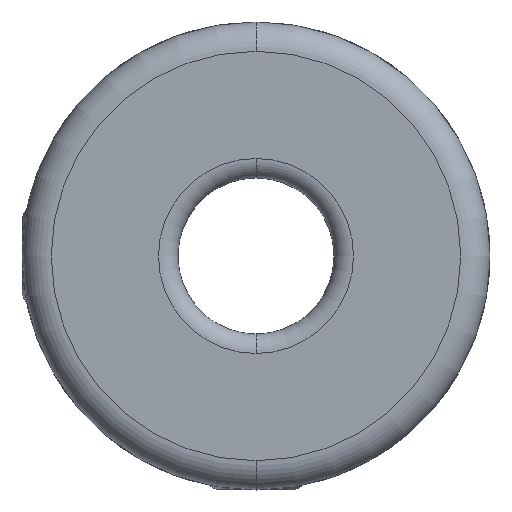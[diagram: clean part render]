
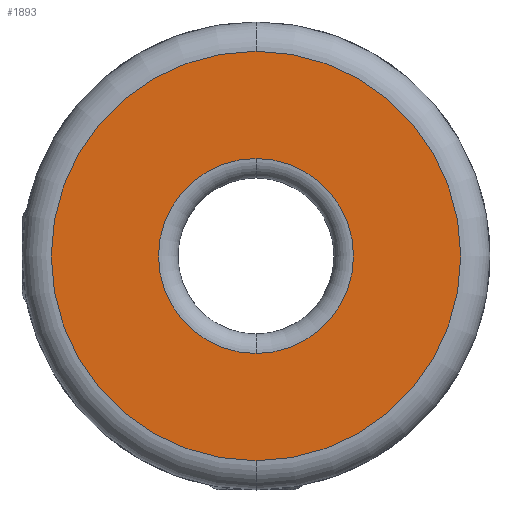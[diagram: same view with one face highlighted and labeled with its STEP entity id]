
A CAD part, left-side view. The second image highlights one B-rep face of the part: STEP entity #1893.
In plain terms, the highlighted planar face has unit normal (-1, 0, 0).
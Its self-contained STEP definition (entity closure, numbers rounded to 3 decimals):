
#25 = EDGE_CURVE ( 'NONE', #2435, #1274, #1361, .T. ) ;
#91 = EDGE_LOOP ( 'NONE', ( #1864, #1599 ) ) ;
#127 = PLANE ( 'NONE',  #930 ) ;
#148 = DIRECTION ( 'NONE',  ( 1., 0., 0. ) ) ;
#150 = VERTEX_POINT ( 'NONE', #197 ) ;
#197 = CARTESIAN_POINT ( 'NONE',  ( -7., 0., 2.5 ) ) ;
#305 = CARTESIAN_POINT ( 'NONE',  ( -7., 0., -2.5 ) ) ;
#452 = DIRECTION ( 'NONE',  ( 0., 0., -1. ) ) ;
#507 = EDGE_CURVE ( 'NONE', #1274, #2435, #1142, .T. ) ;
#511 = AXIS2_PLACEMENT_3D ( 'NONE', #740, #584, #452 ) ;
#559 = CIRCLE ( 'NONE', #826, 2.5 ) ;
#584 = DIRECTION ( 'NONE',  ( -1., 0., 0. ) ) ;
#589 = FACE_OUTER_BOUND ( 'NONE', #1995, .T. ) ;
#598 = FACE_BOUND ( 'NONE', #91, .T. ) ;
#607 = CIRCLE ( 'NONE', #1125, 2.5 ) ;
#740 = CARTESIAN_POINT ( 'NONE',  ( -7., 0., 0. ) ) ;
#809 = CARTESIAN_POINT ( 'NONE',  ( -7., 0., 0. ) ) ;
#826 = AXIS2_PLACEMENT_3D ( 'NONE', #1009, #1969, #1288 ) ;
#930 = AXIS2_PLACEMENT_3D ( 'NONE', #1038, #1342, #1690 ) ;
#1009 = CARTESIAN_POINT ( 'NONE',  ( -7., 0., 0. ) ) ;
#1022 = CARTESIAN_POINT ( 'NONE',  ( -7., 0., 5.25 ) ) ;
#1038 = CARTESIAN_POINT ( 'NONE',  ( -7., 0., 0. ) ) ;
#1125 = AXIS2_PLACEMENT_3D ( 'NONE', #1406, #148, #2459 ) ;
#1142 = CIRCLE ( 'NONE', #511, 5.25 ) ;
#1274 = VERTEX_POINT ( 'NONE', #1022 ) ;
#1288 = DIRECTION ( 'NONE',  ( 0., 0., -1. ) ) ;
#1342 = DIRECTION ( 'NONE',  ( 1., 0., 0. ) ) ;
#1345 = AXIS2_PLACEMENT_3D ( 'NONE', #809, #2269, #1808 ) ;
#1361 = CIRCLE ( 'NONE', #1345, 5.25 ) ;
#1400 = ORIENTED_EDGE ( 'NONE', *, *, #25, .T. ) ;
#1406 = CARTESIAN_POINT ( 'NONE',  ( -7., 0., 0. ) ) ;
#1584 = CARTESIAN_POINT ( 'NONE',  ( -7., 0., -5.25 ) ) ;
#1599 = ORIENTED_EDGE ( 'NONE', *, *, #1931, .T. ) ;
#1639 = ORIENTED_EDGE ( 'NONE', *, *, #507, .T. ) ;
#1690 = DIRECTION ( 'NONE',  ( 0., 0., -1. ) ) ;
#1808 = DIRECTION ( 'NONE',  ( 0., 0., -1. ) ) ;
#1864 = ORIENTED_EDGE ( 'NONE', *, *, #1870, .T. ) ;
#1870 = EDGE_CURVE ( 'NONE', #2357, #150, #607, .T. ) ;
#1893 = ADVANCED_FACE ( 'NONE', ( #598, #589 ), #127, .F. ) ;
#1931 = EDGE_CURVE ( 'NONE', #150, #2357, #559, .T. ) ;
#1969 = DIRECTION ( 'NONE',  ( 1., 0., 0. ) ) ;
#1995 = EDGE_LOOP ( 'NONE', ( #1400, #1639 ) ) ;
#2269 = DIRECTION ( 'NONE',  ( -1., 0., 0. ) ) ;
#2357 = VERTEX_POINT ( 'NONE', #305 ) ;
#2435 = VERTEX_POINT ( 'NONE', #1584 ) ;
#2459 = DIRECTION ( 'NONE',  ( 0., 0., -1. ) ) ;
